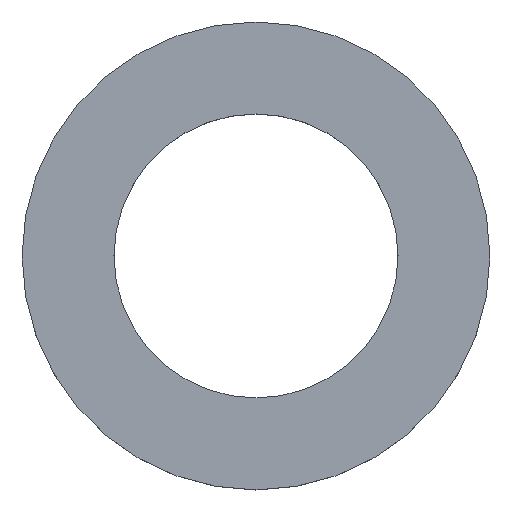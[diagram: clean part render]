
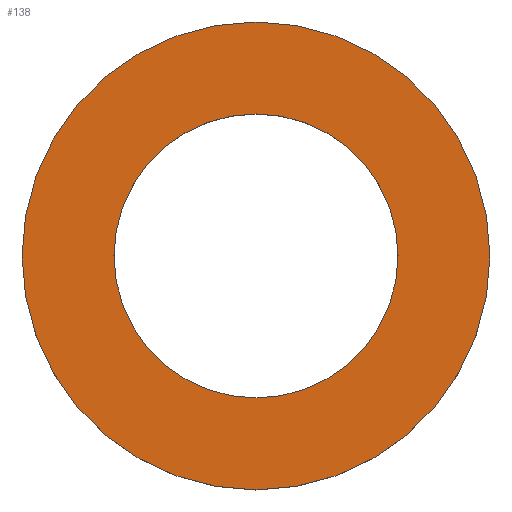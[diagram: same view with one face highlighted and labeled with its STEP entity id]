
A CAD part, top view. The second image highlights one B-rep face of the part: STEP entity #138.
In plain terms, the highlighted planar face has unit normal (0, 0, 1).
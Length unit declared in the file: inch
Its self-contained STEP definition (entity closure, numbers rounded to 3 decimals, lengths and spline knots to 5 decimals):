
#13 = EDGE_CURVE ( 'NONE', #112, #112, #25, .T. ) ;
#15 = EDGE_CURVE ( 'NONE', #130, #130, #29, .T. ) ;
#17 = AXIS2_PLACEMENT_3D ( 'NONE', #86, #91, #94 ) ;
#18 = AXIS2_PLACEMENT_3D ( 'NONE', #119, #121, #122 ) ;
#20 = AXIS2_PLACEMENT_3D ( 'NONE', #90, #100, #102 ) ;
#25 = CIRCLE ( 'NONE', #17, 0.095 ) ;
#26 = FACE_BOUND ( 'NONE', #44, .T. ) ;
#29 = CIRCLE ( 'NONE', #20, 0.1565 ) ;
#44 = EDGE_LOOP ( 'NONE', ( #63 ) ) ;
#49 = FACE_OUTER_BOUND ( 'NONE', #68, .T. ) ;
#58 = ORIENTED_EDGE ( 'NONE', *, *, #15, .T. ) ;
#63 = ORIENTED_EDGE ( 'NONE', *, *, #13, .F. ) ;
#68 = EDGE_LOOP ( 'NONE', ( #58 ) ) ;
#86 = CARTESIAN_POINT ( 'NONE',  ( 0., 0., 0.036 ) ) ;
#90 = CARTESIAN_POINT ( 'NONE',  ( 0., 0., 0.036 ) ) ;
#91 = DIRECTION ( 'NONE',  ( 0., 0., 1. ) ) ;
#94 = DIRECTION ( 'NONE',  ( 1., 0., 0. ) ) ;
#100 = DIRECTION ( 'NONE',  ( 0., 0., 1. ) ) ;
#102 = DIRECTION ( 'NONE',  ( 1., 0., 0. ) ) ;
#112 = VERTEX_POINT ( 'NONE', #127 ) ;
#119 = CARTESIAN_POINT ( 'NONE',  ( 0., 0., 0.036 ) ) ;
#120 = PLANE ( 'NONE',  #18 ) ;
#121 = DIRECTION ( 'NONE',  ( 0., 0., 1. ) ) ;
#122 = DIRECTION ( 'NONE',  ( 1., 0., 0. ) ) ;
#127 = CARTESIAN_POINT ( 'NONE',  ( 0.095, 0., 0.036 ) ) ;
#130 = VERTEX_POINT ( 'NONE', #131 ) ;
#131 = CARTESIAN_POINT ( 'NONE',  ( 0.1565, 0., 0.036 ) ) ;
#138 = ADVANCED_FACE ( 'NONE', ( #49, #26 ), #120, .T. ) ;
